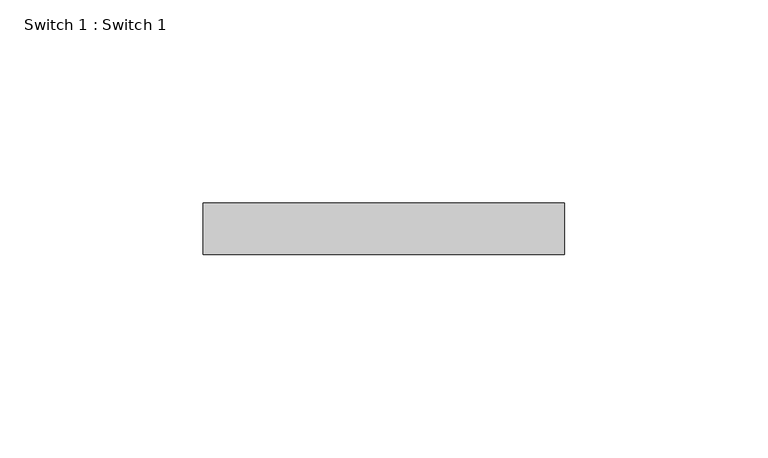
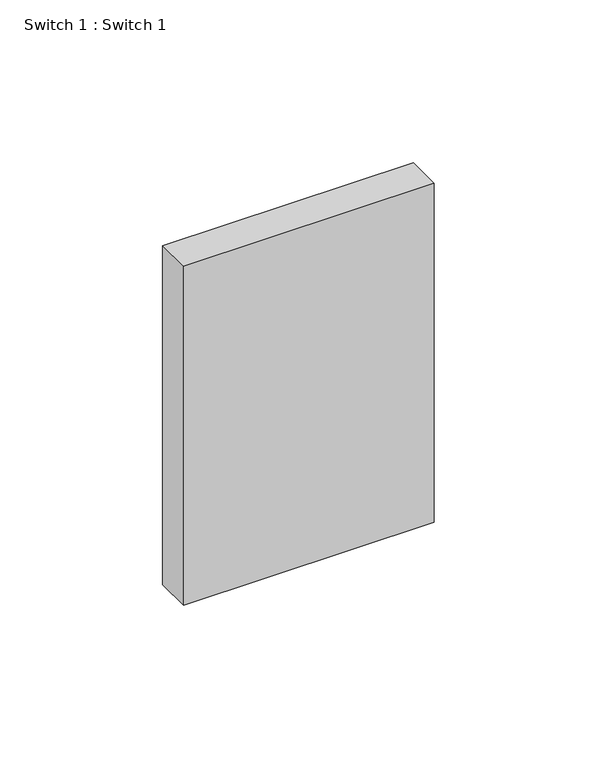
"""IFC4 building model written with IfcOpenShell, lengths in millimetres: proxy geometry, Switch 1 : Switch 1."""

from ifc_helpers import new_model, si_unit, origin, origin_with_axes, place, context, project, spatial, polyline, outline, extrude, source, transform, mapped, element, save


def switch_1_switch_1_61bf59a5(model_context):
    return source(origin(), model_context, "Body", "SweptSolid", [
        extrude(outline(polyline([(49.013, 0.0), (-39.887, 0.0), (-39.887, 12.7), (49.013, 12.7), (49.013, 0.0)])), origin_with_axes(), (0.0, 0.0, 1.0), 127.0),
    ])


if __name__ == "__main__":
    model = new_model("IFC4")
    model_context = context("Model", 3, world=origin())
    ifc_project = project(units=[si_unit("LENGTHUNIT", "METRE", prefix="MILLI")], contexts=[model_context])
    site = spatial("IfcSite", under=ifc_project)
    building = spatial("IfcBuilding", under=site)
    placement = place(None, origin())
    switch_1_switch_1_shape = switch_1_switch_1_61bf59a5(model_context)
    element("IfcBuildingElementProxy", 1, Name="Switch 1 : Switch 1", ObjectType="Switch 1 : Switch 1", at=placement, inside=building, context=model_context, shape_type="MappedRepresentation", body=[
        mapped(switch_1_switch_1_shape, transform((0.0, 0.0, 0.0), x_axis=(1.0, 0.0, 0.0), y_axis=(0.0, 1.0, 0.0), z_axis=(0.0, 0.0, 1.0))),
    ])
    save(model, "model.ifc")
